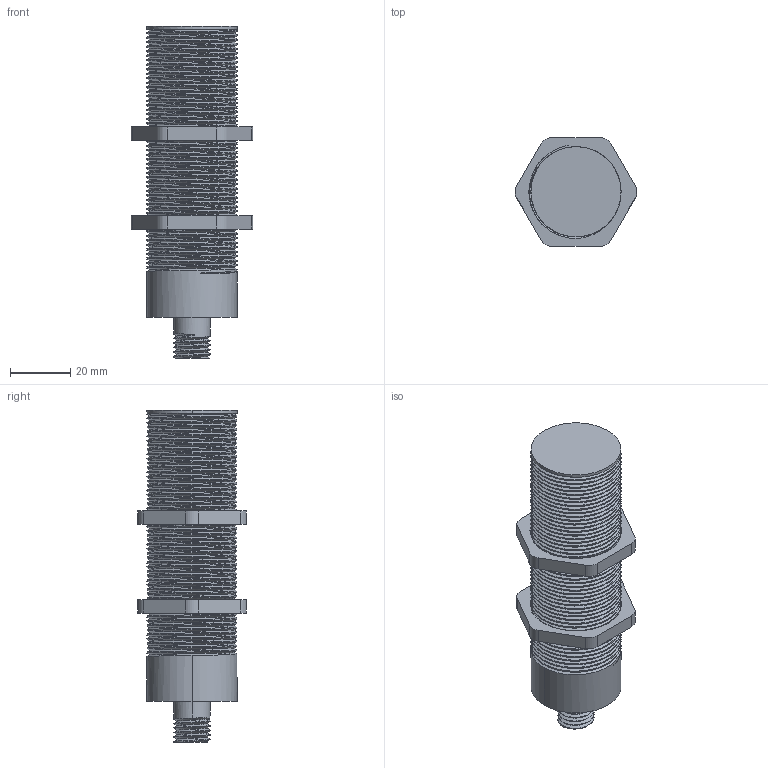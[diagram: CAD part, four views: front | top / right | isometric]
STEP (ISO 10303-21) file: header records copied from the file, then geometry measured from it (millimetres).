
FILE_DESCRIPTION((''),'2;1');
FILE_NAME('M30-TIPY100_ASM','2025-12-24T16:08:37',('28740194'),(''),'CREO PARAMETRIC BY PTC INC, 2024063','CREO PARAMETRIC BY PTC INC, 2024063','');
FILE_SCHEMA(('CONFIG_CONTROL_DESIGN'));
Length unit declared in the file: millimetre
Products named in the file (3): M30; M30000; M30-TIPY100_ASM
Assembly tree (3 placements, depth 2):
  M30-TIPY100_ASM
    M30
    M30000  x2
Bounding box: 40.48 x 36.13 x 110.5 mm (x, y, z)
Volume: 70649.9 mm3; surface area: 20015.9 mm2
Topology: 3 solids, 3 shells, 232 faces, 638 edges, 413 vertices
Faces by surface type: cylinder 144, bspline 68, plane 20
Entity records: 29170 total; most frequent: CARTESIAN_POINT 24722, ORIENTED_EDGE 1136, EDGE_CURVE 568, DIRECTION 535, VERTEX_POINT 367, B_SPLINE_CURVE_WITH_KNOTS 358, EDGE_LOOP 209, FACE_OUTER_BOUND 206
